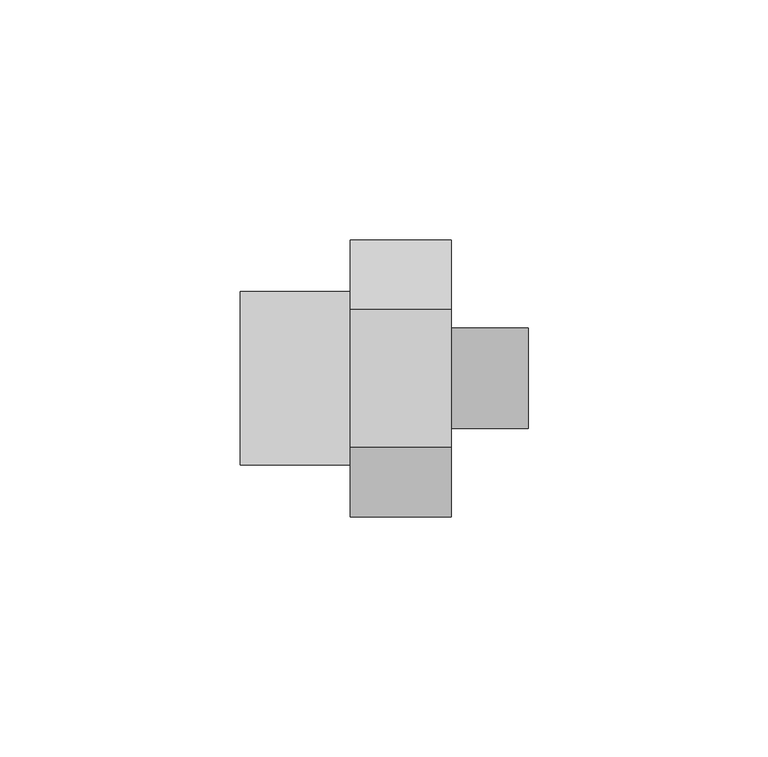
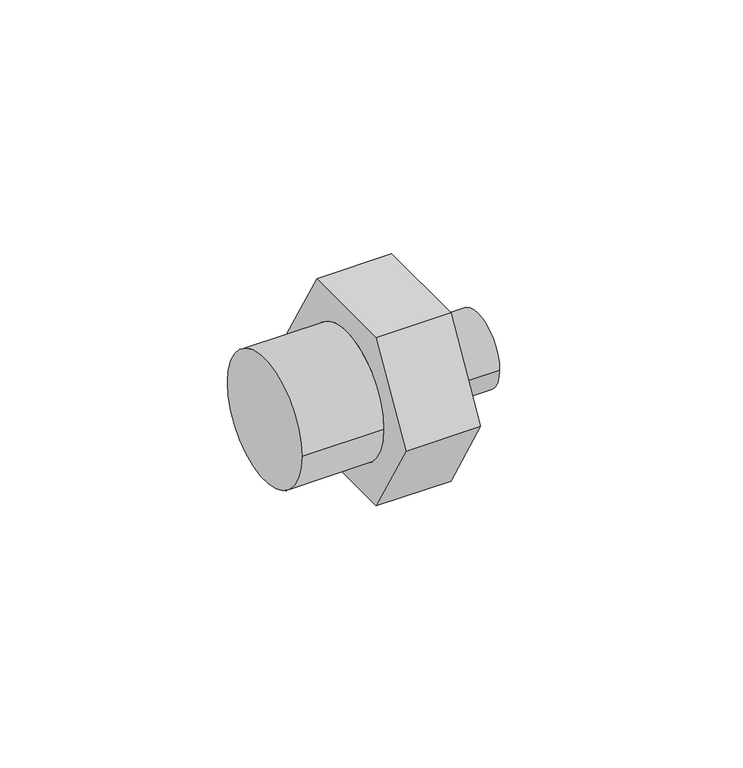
"""IFC4 building model written with IfcOpenShell, lengths in millimetres: pipe fitting geometry, 01011197 : Mamelons doubles réduction."""

from ifc_helpers import new_model, si_unit, frame, origin, place, context, project, spatial, circle_curve, source, transform, mapped, element, save
from ifc_brep_helpers import plane_surface, cylinder_surface, advanced_brep


def pipe_fitting_e453214a(model_context):
    return source(origin(), model_context, "Body", "AdvancedBrep", [
        advanced_brep(
        [(44.0, -14.4337567, 25.0), (44.0, -28.8675135, 0.0), (44.0, -14.4337567, -25.0), (44.0, 14.4337567, -25.0), (44.0, 28.8675135, 0.0), (44.0, 14.4337567, 25.0), (44.0, -10.4775, 0.0), (44.0, 10.4775, 0.0), (23.0, -14.4337567, 25.0), (23.0, 14.4337567, 25.0), (23.0, 28.8675135, 0.0), (23.0, 14.4337567, -25.0), (23.0, -14.4337567, -25.0), (23.0, -28.8675135, 0.0), (23.0, 18.0975, 0.0), (23.0, -18.0975, 0.0), (60.0, -10.4775, 0.0), (60.0, 10.4775, 0.0), (0.0, 18.0975, 0.0), (0.0, -18.0975, 0.0)],
        [
            (0, 1),
            (1, 2),
            (2, 3),
            (3, 4),
            (4, 5),
            (5, 0),
            (6, 7, circle_curve(frame((44.0, 0.0, 0.0), z_axis=(-1.0, 0.0, 0.0), x_axis=(0.0, 1.0, 0.0)), 10.4775)),
            (7, 6, circle_curve(frame((44.0, 0.0, 0.0), z_axis=(-1.0, 0.0, 0.0), x_axis=(0.0, 1.0, 0.0)), 10.4775)),
            (8, 9),
            (9, 10),
            (10, 11),
            (11, 12),
            (12, 13),
            (13, 8),
            (14, 15, circle_curve(frame((23.0, 0.0, 0.0), z_axis=(1.0, 0.0, 0.0), x_axis=(0.0, -1.0, 0.0)), 18.0975)),
            (15, 14, circle_curve(frame((23.0, 0.0, 0.0), z_axis=(1.0, 0.0, 0.0), x_axis=(0.0, -1.0, 0.0)), 18.0975)),
            (0, 8),
            (13, 1),
            (12, 2),
            (11, 3),
            (10, 4),
            (9, 5),
            (16, 17, circle_curve(frame((60.0, 0.0, 0.0), z_axis=(1.0, 0.0, 0.0), x_axis=(0.0, 1.0, 0.0)), 10.4775)),
            (17, 16, circle_curve(frame((60.0, 0.0, 0.0), z_axis=(1.0, 0.0, 0.0), x_axis=(0.0, 1.0, 0.0)), 10.4775)),
            (17, 7),
            (6, 16),
            (18, 19, circle_curve(frame((0.0, 0.0, 0.0), z_axis=(-1.0, 0.0, 0.0), x_axis=(0.0, -1.0, 0.0)), 18.0975)),
            (19, 18, circle_curve(frame((0.0, 0.0, 0.0), z_axis=(-1.0, 0.0, 0.0), x_axis=(0.0, -1.0, 0.0)), 18.0975)),
            (19, 15),
            (14, 18),
        ],
        [
            plane_surface(frame((44.0, -14.4337567, 25.0), z_axis=(1.0, 0.0, 0.0), x_axis=(0.0, -0.5000000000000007, -0.8660254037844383))),
            plane_surface(frame((23.0, -14.4337567, 25.0), z_axis=(-1.0, 0.0, 0.0), x_axis=(0.0, 0.5000000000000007, 0.8660254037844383))),
            plane_surface(frame((44.0, -14.4337567, 25.0), z_axis=(0.0, -0.8660254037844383, 0.5000000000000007), x_axis=(-1.0, 0.0, 0.0))),
            plane_surface(frame((44.0, -28.8675135, 0.0), z_axis=(0.0, -0.866025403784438, -0.500000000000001), x_axis=(-1.0, 0.0, 0.0))),
            plane_surface(frame((44.0, -14.4337567, -25.0), z_axis=(0.0, 0.0, -1.0), x_axis=(-1.0, 0.0, 0.0))),
            plane_surface(frame((44.0, 14.4337567, -25.0), z_axis=(0.0, 0.8660254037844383, -0.5000000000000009), x_axis=(-1.0, 0.0, 0.0))),
            plane_surface(frame((44.0, 28.8675135, 0.0), z_axis=(0.0, 0.866025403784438, 0.500000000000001), x_axis=(-1.0, 0.0, 0.0))),
            plane_surface(frame((44.0, 14.4337567, 25.0), z_axis=(0.0, 0.0, 1.0), x_axis=(-1.0, 0.0, 0.0))),
            plane_surface(frame((60.0, 0.0, 0.0), z_axis=(1.0, 0.0, 0.0), x_axis=(0.0, 0.0, 1.0))),
            cylinder_surface(frame((44.0, 0.0, 0.0), z_axis=(-1.0, 0.0, 0.0), x_axis=(0.0, 1.0, 0.0)), 10.4775),
            plane_surface(frame((0.0, 0.0, 0.0), z_axis=(-1.0, 0.0, 0.0), x_axis=(0.0, 0.0, 1.0))),
            cylinder_surface(frame((23.0, 0.0, 0.0), z_axis=(1.0, 0.0, 0.0), x_axis=(0.0, -1.0, 0.0)), 18.0975),
        ],
        [
            (0, [[1, 2, 3, 4, 5, 6], [7, 8]]),
            (1, [[9, 10, 11, 12, 13, 14], [15, 16]]),
            (2, [[-1, 17, -14, 18]]),
            (3, [[-2, -18, -13, 19]]),
            (4, [[-3, -19, -12, 20]]),
            (5, [[-4, -20, -11, 21]]),
            (6, [[-5, -21, -10, 22]]),
            (7, [[-6, -22, -9, -17]]),
            (8, [[23, 24]]),
            (9, [[-24, 25, -7, 26]]),
            (9, [[-23, -26, -8, -25]]),
            (10, [[27, 28]]),
            (11, [[-28, 29, -15, 30]]),
            (11, [[-27, -30, -16, -29]]),
        ],
    ),
    ])


if __name__ == "__main__":
    model = new_model("IFC4")
    model_context = context("Model", 3, world=origin())
    ifc_project = project(units=[si_unit("LENGTHUNIT", "METRE", prefix="MILLI")], contexts=[model_context])
    site = spatial("IfcSite", under=ifc_project)
    building = spatial("IfcBuilding", under=site)
    placement = place(None, origin())
    pipe_fitting_shape = pipe_fitting_e453214a(model_context)
    element("IfcPipeFitting", 1, ObjectType="01011197 : Mamelons doubles réduction", at=placement, inside=building, context=model_context, shape_type="MappedRepresentation", body=[
        mapped(pipe_fitting_shape, transform((0.0, 0.0, 0.0), x_axis=(1.0, 0.0, 0.0), y_axis=(0.0, 1.0, 0.0), z_axis=(0.0, 0.0, 1.0))),
    ])
    save(model, "model.ifc")
